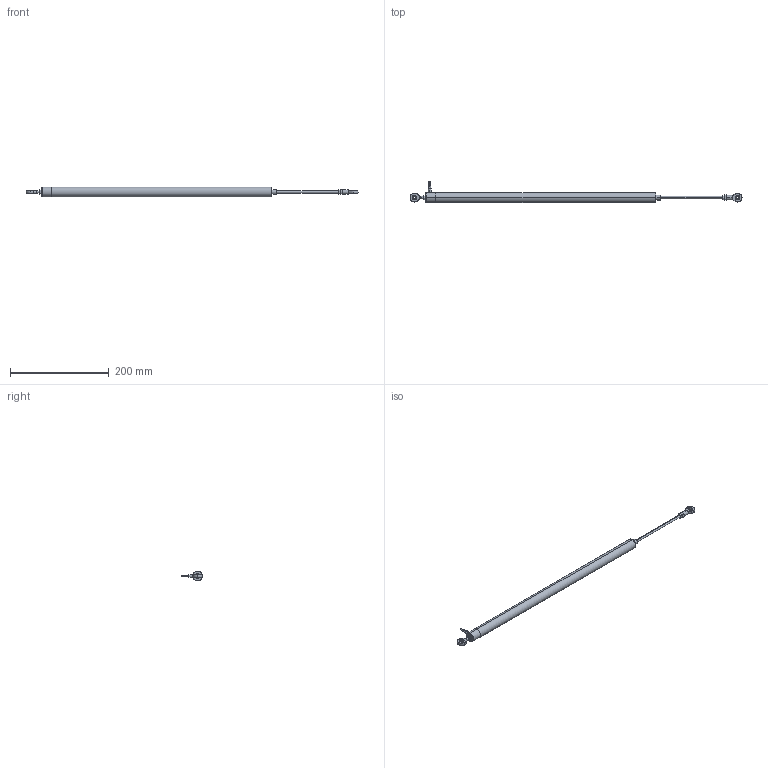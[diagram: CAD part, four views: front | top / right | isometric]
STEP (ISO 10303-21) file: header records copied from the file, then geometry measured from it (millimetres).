
FILE_DESCRIPTION(/* description */ ('Unknown'),/* implementation_level */ '2;1');
FILE_NAME(/* name */ 'LVIG-200-xxx-KRxx',/* time_stamp */ '2025-11-06T08:15:55+01:00',/* author */ ('Unknown'),/* organization */ ('Unknown'),/* preprocessor_version */ 'ST-DEVELOPER v18.104',/* originating_system */ 'Solid Edge',/* authorisation */ 'Unknown');
FILE_SCHEMA (('AUTOMOTIVE_DESIGN {1 0 10303 214 3 1 1}'));
Length unit declared in the file: millimetre
Products named in the file (1): LVIG-200-xxx-KRxx
Bounding box: 671 x 42.45 x 19.9 mm (x, y, z)
Volume: 153011.4 mm3; surface area: 37358.4 mm2
Topology: 7 solids, 7 shells, 134 faces, 290 edges, 176 vertices
Faces by surface type: cone 42, plane 42, cylinder 34, sphere 12, torus 4
Entity records: 3920 total; most frequent: CARTESIAN_POINT 970, DIRECTION 628, ORIENTED_EDGE 556, AXIS2_PLACEMENT_3D 281, EDGE_CURVE 278, VERTEX_POINT 168, EDGE_LOOP 150, FACE_BOUND 150
